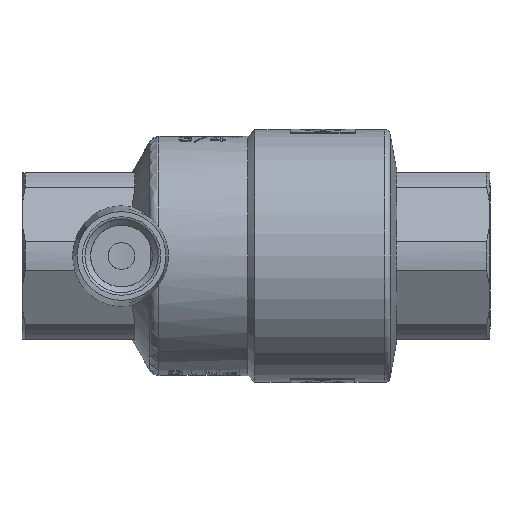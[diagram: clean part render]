
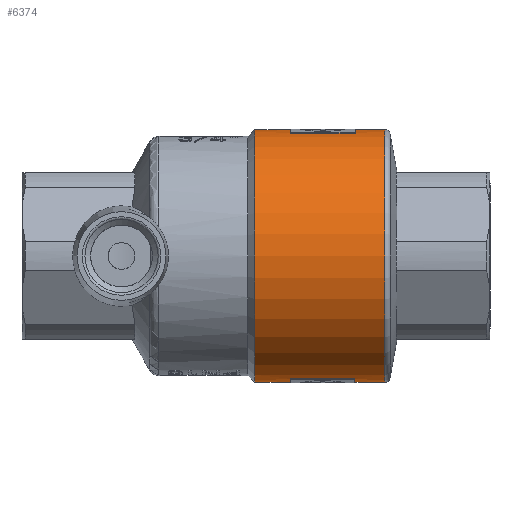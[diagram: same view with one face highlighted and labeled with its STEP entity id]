
A CAD part, front view. The second image highlights one B-rep face of the part: STEP entity #6374.
In plain terms, the highlighted cylindrical face has radius 23.5 mm (diameter 47 mm), a full revolution.
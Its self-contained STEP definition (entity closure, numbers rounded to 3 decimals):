
#116=FACE_BOUND('',#1132,.T.);
#117=FACE_BOUND('',#1133,.T.);
#118=FACE_BOUND('',#1134,.T.);
#464=CYLINDRICAL_SURFACE('',#6936,23.5);
#743=FACE_OUTER_BOUND('',#1131,.T.);
#1131=EDGE_LOOP('',(#5359,#5360,#5361,#5362,#5363,#5364,#5365));
#1132=EDGE_LOOP('',(#5366,#5367,#5368,#5369));
#1133=EDGE_LOOP('',(#5370,#5371,#5372,#5373));
#1134=EDGE_LOOP('',(#5374,#5375));
#1368=CIRCLE('',#6695,23.5);
#1370=CIRCLE('',#6699,23.5);
#1416=CIRCLE('',#6847,23.5);
#1417=CIRCLE('',#6851,23.5);
#1430=CIRCLE('',#6937,23.5);
#1431=CIRCLE('',#6938,23.5);
#1432=CIRCLE('',#6939,23.5);
#1433=CIRCLE('',#6940,23.5);
#1434=CIRCLE('',#6941,23.5);
#1722=B_SPLINE_CURVE_WITH_KNOTS('',3,(#14573,#14574,#14575,#14576,#14577,
#14578,#14579,#14580,#14581,#14582,#14583,#14584,#14585,#14586,#14587,#14588,
#14589,#14590,#14591,#14592,#14593,#14594,#14595,#14596,#14597,#14598),
 .UNSPECIFIED.,.F.,.F.,(4,2,2,2,2,2,2,2,2,2,2,2,4),(0.,0.336,
0.672,1.007,1.342,1.676,2.011,
2.347,2.683,3.019,3.356,3.69,
4.025),.UNSPECIFIED.);
#1723=B_SPLINE_CURVE_WITH_KNOTS('',3,(#14599,#14600,#14601,#14602,#14603,
#14604,#14605,#14606,#14607,#14608),.UNSPECIFIED.,.F.,.F.,(4,2,2,2,4),(4.025,
4.36,4.695,5.031,5.367),
 .UNSPECIFIED.);
#1864=LINE('',#12618,#2255);
#1868=LINE('',#12628,#2259);
#1999=LINE('',#14130,#2390);
#2000=LINE('',#14133,#2391);
#2071=LINE('',#14566,#2462);
#2255=VECTOR('',#7679,10.);
#2259=VECTOR('',#7691,10.);
#2390=VECTOR('',#8118,10.);
#2391=VECTOR('',#8121,10.);
#2462=VECTOR('',#8370,23.5);
#2731=VERTEX_POINT('',#12609);
#2732=VERTEX_POINT('',#12611);
#2734=VERTEX_POINT('',#12617);
#2736=VERTEX_POINT('',#12623);
#2937=VERTEX_POINT('',#14122);
#2938=VERTEX_POINT('',#14124);
#2939=VERTEX_POINT('',#14128);
#2940=VERTEX_POINT('',#14132);
#2996=VERTEX_POINT('',#14560);
#2997=VERTEX_POINT('',#14561);
#2998=VERTEX_POINT('',#14563);
#2999=VERTEX_POINT('',#14565);
#3000=VERTEX_POINT('',#14567);
#3001=VERTEX_POINT('',#14571);
#3002=VERTEX_POINT('',#14572);
#3460=EDGE_CURVE('',#2732,#2731,#1368,.T.);
#3463=EDGE_CURVE('',#2734,#2732,#1864,.T.);
#3466=EDGE_CURVE('',#2736,#2734,#1370,.T.);
#3469=EDGE_CURVE('',#2731,#2736,#1868,.T.);
#3741=EDGE_CURVE('',#2938,#2937,#1416,.T.);
#3744=EDGE_CURVE('',#2937,#2939,#1999,.T.);
#3745=EDGE_CURVE('',#2940,#2938,#2000,.T.);
#3747=EDGE_CURVE('',#2939,#2940,#1417,.T.);
#3857=EDGE_CURVE('',#2996,#2997,#1430,.T.);
#3858=EDGE_CURVE('',#2998,#2996,#1431,.T.);
#3859=EDGE_CURVE('',#2998,#2999,#2071,.T.);
#3860=EDGE_CURVE('',#2999,#3000,#1432,.T.);
#3861=EDGE_CURVE('',#3000,#2999,#1433,.T.);
#3862=EDGE_CURVE('',#2997,#2998,#1434,.T.);
#3863=EDGE_CURVE('',#3001,#3002,#1722,.T.);
#3864=EDGE_CURVE('',#3002,#3001,#1723,.T.);
#5359=ORIENTED_EDGE('',*,*,#3857,.F.);
#5360=ORIENTED_EDGE('',*,*,#3858,.F.);
#5361=ORIENTED_EDGE('',*,*,#3859,.T.);
#5362=ORIENTED_EDGE('',*,*,#3860,.T.);
#5363=ORIENTED_EDGE('',*,*,#3861,.T.);
#5364=ORIENTED_EDGE('',*,*,#3859,.F.);
#5365=ORIENTED_EDGE('',*,*,#3862,.F.);
#5366=ORIENTED_EDGE('',*,*,#3460,.T.);
#5367=ORIENTED_EDGE('',*,*,#3469,.T.);
#5368=ORIENTED_EDGE('',*,*,#3466,.T.);
#5369=ORIENTED_EDGE('',*,*,#3463,.T.);
#5370=ORIENTED_EDGE('',*,*,#3741,.T.);
#5371=ORIENTED_EDGE('',*,*,#3744,.T.);
#5372=ORIENTED_EDGE('',*,*,#3747,.T.);
#5373=ORIENTED_EDGE('',*,*,#3745,.T.);
#5374=ORIENTED_EDGE('',*,*,#3863,.T.);
#5375=ORIENTED_EDGE('',*,*,#3864,.T.);
#6374=ADVANCED_FACE('',(#743,#116,#117,#118),#464,.T.);
#6695=AXIS2_PLACEMENT_3D('',#12612,#7673,#7674);
#6699=AXIS2_PLACEMENT_3D('',#12624,#7685,#7686);
#6847=AXIS2_PLACEMENT_3D('',#14125,#8112,#8113);
#6851=AXIS2_PLACEMENT_3D('',#14136,#8125,#8126);
#6936=AXIS2_PLACEMENT_3D('',#14559,#8364,#8365);
#6937=AXIS2_PLACEMENT_3D('',#14562,#8366,#8367);
#6938=AXIS2_PLACEMENT_3D('',#14564,#8368,#8369);
#6939=AXIS2_PLACEMENT_3D('',#14568,#8371,#8372);
#6940=AXIS2_PLACEMENT_3D('',#14569,#8373,#8374);
#6941=AXIS2_PLACEMENT_3D('',#14570,#8375,#8376);
#7673=DIRECTION('center_axis',(1.,0.,0.));
#7674=DIRECTION('ref_axis',(0.,1.,0.));
#7679=DIRECTION('',(1.,0.,0.));
#7685=DIRECTION('center_axis',(-1.,0.,0.));
#7686=DIRECTION('ref_axis',(0.,1.,0.));
#7691=DIRECTION('',(-1.,0.,0.));
#8112=DIRECTION('center_axis',(1.,0.,0.));
#8113=DIRECTION('ref_axis',(0.,1.,0.));
#8118=DIRECTION('',(-1.,0.,0.));
#8121=DIRECTION('',(1.,0.,0.));
#8125=DIRECTION('center_axis',(-1.,0.,0.));
#8126=DIRECTION('ref_axis',(0.,1.,0.));
#8364=DIRECTION('center_axis',(1.,0.,0.));
#8365=DIRECTION('ref_axis',(0.,1.,0.));
#8366=DIRECTION('center_axis',(1.,0.,0.));
#8367=DIRECTION('ref_axis',(0.,0.,-1.));
#8368=DIRECTION('center_axis',(1.,0.,0.));
#8369=DIRECTION('ref_axis',(0.,0.,-1.));
#8370=DIRECTION('',(-1.,0.,0.));
#8371=DIRECTION('center_axis',(1.,0.,0.));
#8372=DIRECTION('ref_axis',(0.,0.,-1.));
#8373=DIRECTION('center_axis',(1.,0.,0.));
#8374=DIRECTION('ref_axis',(0.,0.,-1.));
#8375=DIRECTION('center_axis',(1.,0.,0.));
#8376=DIRECTION('ref_axis',(0.,0.,-1.));
#12609=CARTESIAN_POINT('',(18.391,6.451,-22.597));
#12611=CARTESIAN_POINT('',(18.391,-5.536,-22.839));
#12612=CARTESIAN_POINT('Origin',(18.391,0.,
0.));
#12617=CARTESIAN_POINT('',(6.404,-5.536,-22.839));
#12618=CARTESIAN_POINT('',(11.855,-5.536,-22.839));
#12623=CARTESIAN_POINT('',(6.404,6.451,-22.597));
#12624=CARTESIAN_POINT('Origin',(6.404,0.,
0.));
#12628=CARTESIAN_POINT('',(11.855,6.451,-22.597));
#14122=CARTESIAN_POINT('',(18.425,-5.536,22.839));
#14124=CARTESIAN_POINT('',(18.425,6.451,22.597));
#14125=CARTESIAN_POINT('Origin',(18.425,0.,
0.));
#14128=CARTESIAN_POINT('',(6.438,-5.536,22.839));
#14130=CARTESIAN_POINT('',(11.855,-5.536,22.839));
#14132=CARTESIAN_POINT('',(6.438,6.451,22.597));
#14133=CARTESIAN_POINT('',(11.855,6.451,22.597));
#14136=CARTESIAN_POINT('Origin',(6.438,0.,
0.));
#14559=CARTESIAN_POINT('Origin',(11.855,0.,
0.));
#14560=CARTESIAN_POINT('',(23.961,23.5,0.));
#14561=CARTESIAN_POINT('',(23.961,0.,23.5));
#14562=CARTESIAN_POINT('Origin',(23.961,0.,
0.));
#14563=CARTESIAN_POINT('',(23.961,-23.5,0.));
#14564=CARTESIAN_POINT('Origin',(23.961,0.,
0.));
#14565=CARTESIAN_POINT('',(-0.25,-23.5,0.));
#14566=CARTESIAN_POINT('',(11.855,-23.5,0.));
#14567=CARTESIAN_POINT('',(-0.25,23.5,0.));
#14568=CARTESIAN_POINT('Origin',(-0.25,0.,
0.));
#14569=CARTESIAN_POINT('Origin',(-0.25,0.,
0.));
#14570=CARTESIAN_POINT('Origin',(23.961,0.,
0.));
#14571=CARTESIAN_POINT('',(12.5,21.766,8.861));
#14572=CARTESIAN_POINT('',(21.255,23.5,0.));
#14573=CARTESIAN_POINT('Ctrl Pts',(12.5,21.766,8.861));
#14574=CARTESIAN_POINT('Ctrl Pts',(11.38,21.766,8.861));
#14575=CARTESIAN_POINT('Ctrl Pts',(10.196,21.864,8.63));
#14576=CARTESIAN_POINT('Ctrl Pts',(8.035,22.204,7.712));
#14577=CARTESIAN_POINT('Ctrl Pts',(7.057,22.44,7.026));
#14578=CARTESIAN_POINT('Ctrl Pts',(5.521,22.871,5.46));
#14579=CARTESIAN_POINT('Ctrl Pts',(4.855,23.097,4.472));
#14580=CARTESIAN_POINT('Ctrl Pts',(3.967,23.413,2.3));
#14581=CARTESIAN_POINT('Ctrl Pts',(3.745,23.5,1.116));
#14582=CARTESIAN_POINT('Ctrl Pts',(3.745,23.5,-1.116));
#14583=CARTESIAN_POINT('Ctrl Pts',(3.967,23.413,-2.3));
#14584=CARTESIAN_POINT('Ctrl Pts',(4.855,23.097,-4.472));
#14585=CARTESIAN_POINT('Ctrl Pts',(5.521,22.871,-5.46));
#14586=CARTESIAN_POINT('Ctrl Pts',(7.057,22.44,-7.026));
#14587=CARTESIAN_POINT('Ctrl Pts',(8.035,22.204,-7.712));
#14588=CARTESIAN_POINT('Ctrl Pts',(10.196,21.864,-8.63));
#14589=CARTESIAN_POINT('Ctrl Pts',(11.38,21.766,-8.861));
#14590=CARTESIAN_POINT('Ctrl Pts',(13.62,21.766,-8.861));
#14591=CARTESIAN_POINT('Ctrl Pts',(14.804,21.864,-8.63));
#14592=CARTESIAN_POINT('Ctrl Pts',(16.965,22.204,-7.712));
#14593=CARTESIAN_POINT('Ctrl Pts',(17.943,22.44,-7.026));
#14594=CARTESIAN_POINT('Ctrl Pts',(19.479,22.871,-5.46));
#14595=CARTESIAN_POINT('Ctrl Pts',(20.145,23.097,-4.472));
#14596=CARTESIAN_POINT('Ctrl Pts',(21.033,23.413,-2.3));
#14597=CARTESIAN_POINT('Ctrl Pts',(21.255,23.5,-1.116));
#14598=CARTESIAN_POINT('Ctrl Pts',(21.255,23.5,0.));
#14599=CARTESIAN_POINT('Ctrl Pts',(21.255,23.5,0.));
#14600=CARTESIAN_POINT('Ctrl Pts',(21.255,23.5,1.116));
#14601=CARTESIAN_POINT('Ctrl Pts',(21.033,23.413,2.3));
#14602=CARTESIAN_POINT('Ctrl Pts',(20.145,23.097,4.472));
#14603=CARTESIAN_POINT('Ctrl Pts',(19.479,22.871,5.46));
#14604=CARTESIAN_POINT('Ctrl Pts',(17.943,22.44,7.026));
#14605=CARTESIAN_POINT('Ctrl Pts',(16.965,22.204,7.712));
#14606=CARTESIAN_POINT('Ctrl Pts',(14.804,21.864,8.63));
#14607=CARTESIAN_POINT('Ctrl Pts',(13.62,21.766,8.861));
#14608=CARTESIAN_POINT('Ctrl Pts',(12.5,21.766,8.861));
